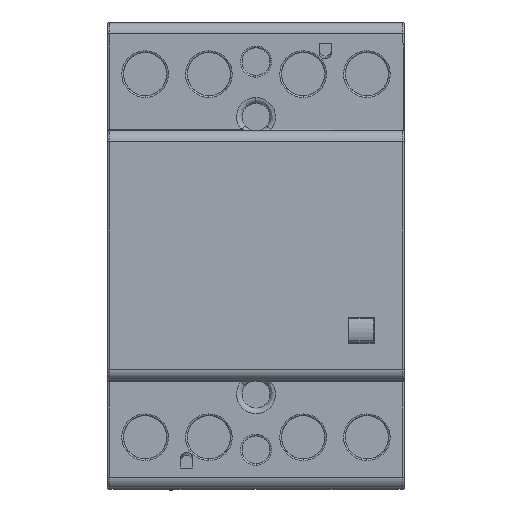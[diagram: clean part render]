
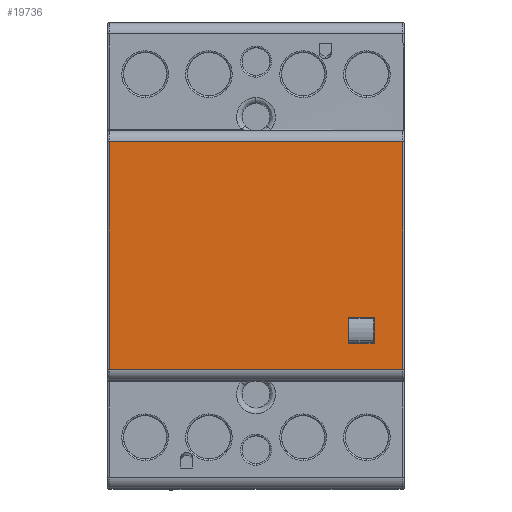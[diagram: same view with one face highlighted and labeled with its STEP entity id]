
A CAD part, top view. The second image highlights one B-rep face of the part: STEP entity #19736.
In plain terms, the highlighted planar face has unit normal (0, 0, 1).
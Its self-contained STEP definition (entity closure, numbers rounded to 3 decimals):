
#64 = CARTESIAN_POINT ( 'NONE',  ( 43.45, 26.3, 65.5 ) ) ;
#419 = CARTESIAN_POINT ( 'NONE',  ( 43.45, 19.7, 65.5 ) ) ;
#3075 = LINE ( 'NONE', #43742, #4551 ) ;
#4282 = ORIENTED_EDGE ( 'NONE', *, *, #26042, .T. ) ;
#4431 = ORIENTED_EDGE ( 'NONE', *, *, #10428, .T. ) ;
#4551 = VECTOR ( 'NONE', #29639, 1000. ) ;
#4793 = DIRECTION ( 'NONE',  ( -1., 0., 0. ) ) ;
#4812 = DIRECTION ( 'NONE',  ( 1., 0., 0. ) ) ;
#7097 = LINE ( 'NONE', #21694, #22258 ) ;
#7259 = CARTESIAN_POINT ( 'NONE',  ( 0.25, 21.7, 65.5 ) ) ;
#7349 = LINE ( 'NONE', #7658, #34559 ) ;
#7658 = CARTESIAN_POINT ( 'NONE',  ( 0.25, 19.7, 65.5 ) ) ;
#7827 = VERTEX_POINT ( 'NONE', #64 ) ;
#7831 = CARTESIAN_POINT ( 'NONE',  ( 53.25, 21.7, 65.5 ) ) ;
#8558 = EDGE_CURVE ( 'NONE', #23744, #44415, #58669, .T. ) ;
#9142 = EDGE_LOOP ( 'NONE', ( #4431, #17398, #32144, #53454, #4282, #55807 ) ) ;
#9609 = CARTESIAN_POINT ( 'NONE',  ( 53.5, 19.7, 65.5 ) ) ;
#9660 = EDGE_LOOP ( 'NONE', ( #26000, #22409, #45217, #30845 ) ) ;
#10428 = EDGE_CURVE ( 'NONE', #7827, #12419, #18901, .T. ) ;
#11857 = CARTESIAN_POINT ( 'NONE',  ( 43.45, 31.1, 65.5 ) ) ;
#11999 = CARTESIAN_POINT ( 'NONE',  ( 53.25, 19.7, 65.5 ) ) ;
#12419 = VERTEX_POINT ( 'NONE', #36532 ) ;
#13801 = LINE ( 'NONE', #47226, #46997 ) ;
#14917 = DIRECTION ( 'NONE',  ( 0., -1., 0. ) ) ;
#16099 = VECTOR ( 'NONE', #40334, 1000. ) ;
#16131 = EDGE_CURVE ( 'NONE', #44415, #56563, #7349, .T. ) ;
#16664 = VERTEX_POINT ( 'NONE', #29818 ) ;
#17398 = ORIENTED_EDGE ( 'NONE', *, *, #40180, .T. ) ;
#17646 = CARTESIAN_POINT ( 'NONE',  ( 53.5, 62.7, 65.5 ) ) ;
#18901 = LINE ( 'NONE', #419, #19189 ) ;
#19168 = CARTESIAN_POINT ( 'NONE',  ( 0.25, 62.7, 65.5 ) ) ;
#19189 = VECTOR ( 'NONE', #31780, 1000. ) ;
#19331 = CARTESIAN_POINT ( 'NONE',  ( 48.05, 19.7, 65.5 ) ) ;
#19736 = ADVANCED_FACE ( 'NONE', ( #26620, #21543 ), #44924, .T. ) ;
#20462 = VECTOR ( 'NONE', #53562, 1000. ) ;
#21543 = FACE_OUTER_BOUND ( 'NONE', #9660, .T. ) ;
#21694 = CARTESIAN_POINT ( 'NONE',  ( 43.45, 19.7, 65.5 ) ) ;
#22258 = VECTOR ( 'NONE', #25577, 1000. ) ;
#22409 = ORIENTED_EDGE ( 'NONE', *, *, #30823, .T. ) ;
#23744 = VERTEX_POINT ( 'NONE', #45937 ) ;
#25577 = DIRECTION ( 'NONE',  ( 0., 1., 0. ) ) ;
#26000 = ORIENTED_EDGE ( 'NONE', *, *, #58295, .T. ) ;
#26042 = EDGE_CURVE ( 'NONE', #32006, #16664, #51092, .T. ) ;
#26620 = FACE_BOUND ( 'NONE', #9142, .T. ) ;
#27005 = VERTEX_POINT ( 'NONE', #27154 ) ;
#27154 = CARTESIAN_POINT ( 'NONE',  ( 43.45, 30.93, 65.5 ) ) ;
#29165 = EDGE_CURVE ( 'NONE', #32442, #32006, #13801, .T. ) ;
#29520 = CARTESIAN_POINT ( 'NONE',  ( 48.05, 31.1, 65.5 ) ) ;
#29639 = DIRECTION ( 'NONE',  ( 0., 1., 0. ) ) ;
#29818 = CARTESIAN_POINT ( 'NONE',  ( 48.05, 26.3, 65.5 ) ) ;
#30823 = EDGE_CURVE ( 'NONE', #43456, #23744, #35233, .T. ) ;
#30845 = ORIENTED_EDGE ( 'NONE', *, *, #16131, .T. ) ;
#31780 = DIRECTION ( 'NONE',  ( 0., 1., 0. ) ) ;
#32006 = VERTEX_POINT ( 'NONE', #29520 ) ;
#32144 = ORIENTED_EDGE ( 'NONE', *, *, #48148, .T. ) ;
#32442 = VERTEX_POINT ( 'NONE', #11857 ) ;
#34559 = VECTOR ( 'NONE', #39566, 1000. ) ;
#35233 = LINE ( 'NONE', #11999, #20462 ) ;
#35247 = CARTESIAN_POINT ( 'NONE',  ( 53.5, 21.7, 65.5 ) ) ;
#35547 = LINE ( 'NONE', #35247, #16099 ) ;
#36532 = CARTESIAN_POINT ( 'NONE',  ( 43.45, 26.67, 65.5 ) ) ;
#38575 = EDGE_CURVE ( 'NONE', #16664, #7827, #50363, .T. ) ;
#39194 = VECTOR ( 'NONE', #14917, 1000. ) ;
#39566 = DIRECTION ( 'NONE',  ( 0., -1., 0. ) ) ;
#40180 = EDGE_CURVE ( 'NONE', #12419, #27005, #3075, .T. ) ;
#40334 = DIRECTION ( 'NONE',  ( 1., 0., 0. ) ) ;
#40658 = DIRECTION ( 'NONE',  ( 0., 0., 1. ) ) ;
#43456 = VERTEX_POINT ( 'NONE', #7831 ) ;
#43742 = CARTESIAN_POINT ( 'NONE',  ( 43.45, 19.7, 65.5 ) ) ;
#43767 = AXIS2_PLACEMENT_3D ( 'NONE', #9609, #40658, #45222 ) ;
#44380 = VECTOR ( 'NONE', #54837, 1000. ) ;
#44415 = VERTEX_POINT ( 'NONE', #19168 ) ;
#44924 = PLANE ( 'NONE',  #43767 ) ;
#45217 = ORIENTED_EDGE ( 'NONE', *, *, #8558, .T. ) ;
#45222 = DIRECTION ( 'NONE',  ( 0., 1., 0. ) ) ;
#45297 = CARTESIAN_POINT ( 'NONE',  ( 53.5, 26.3, 65.5 ) ) ;
#45937 = CARTESIAN_POINT ( 'NONE',  ( 53.25, 62.7, 65.5 ) ) ;
#46997 = VECTOR ( 'NONE', #4812, 1000. ) ;
#47226 = CARTESIAN_POINT ( 'NONE',  ( 53.5, 31.1, 65.5 ) ) ;
#48148 = EDGE_CURVE ( 'NONE', #27005, #32442, #7097, .T. ) ;
#50363 = LINE ( 'NONE', #45297, #44380 ) ;
#51092 = LINE ( 'NONE', #19331, #39194 ) ;
#53298 = VECTOR ( 'NONE', #4793, 1000. ) ;
#53454 = ORIENTED_EDGE ( 'NONE', *, *, #29165, .T. ) ;
#53562 = DIRECTION ( 'NONE',  ( 0., 1., 0. ) ) ;
#54837 = DIRECTION ( 'NONE',  ( -1., 0., 0. ) ) ;
#55807 = ORIENTED_EDGE ( 'NONE', *, *, #38575, .T. ) ;
#56563 = VERTEX_POINT ( 'NONE', #7259 ) ;
#58295 = EDGE_CURVE ( 'NONE', #56563, #43456, #35547, .T. ) ;
#58669 = LINE ( 'NONE', #17646, #53298 ) ;
